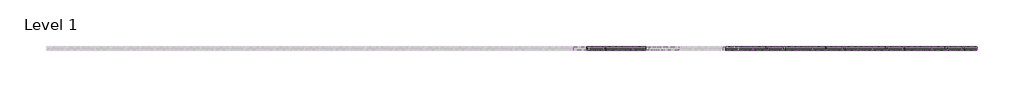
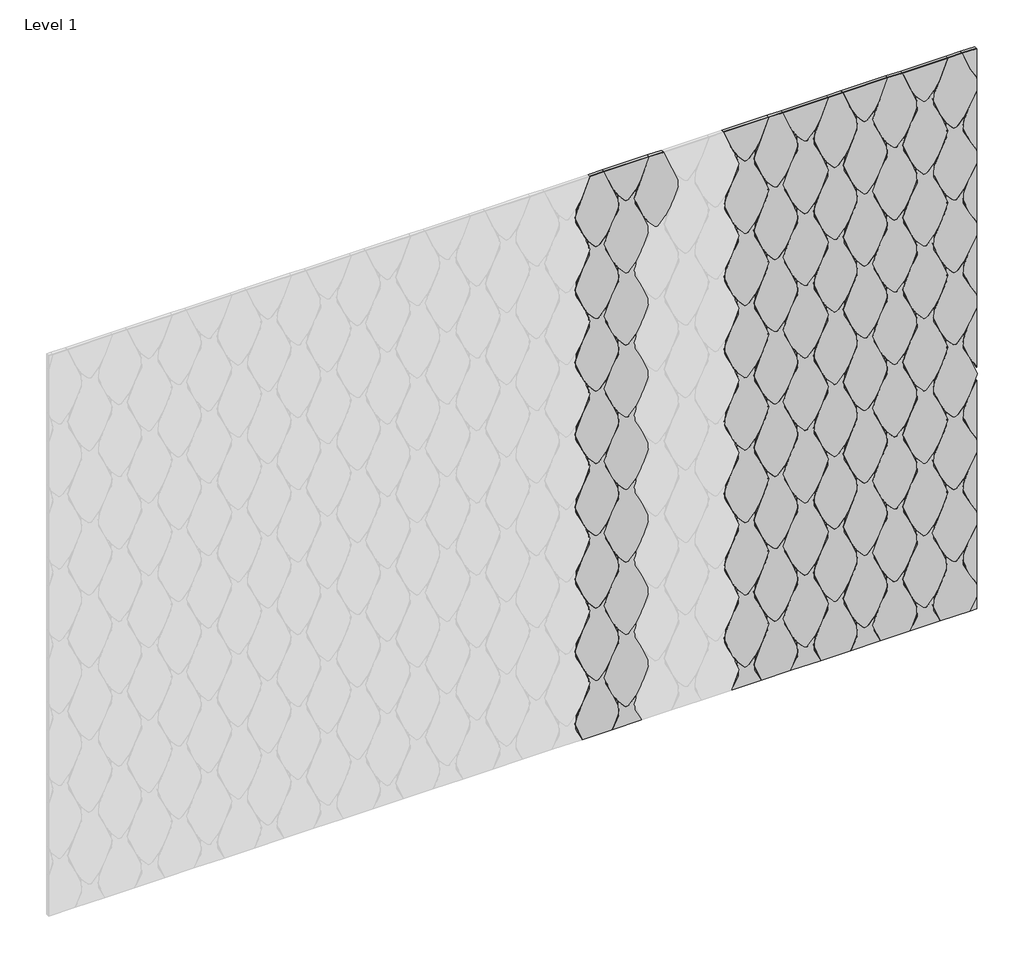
# One storey, part 3 of 3: 95 proxies.
"""IFC4 building model written with IfcOpenShell, lengths in millimetres."""

from ifc_helpers import new_model, si_unit, origin, place, context, project, spatial, transform, mapped, element, save
from components import specialty_equipment_90dfa3fd, specialty_equipment_1cb976ee, specialty_equipment_932aa2c9, specialty_equipment_3faf9097, specialty_equipment_b1607f59, specialty_equipment_77375bea, specialty_equipment_58f33b70, specialty_equipment_ba96d7a5, specialty_equipment_e357aaf0, specialty_equipment_1d68d449, specialty_equipment_25086a34, specialty_equipment_ef051c02, specialty_equipment_d7a9fa1d, specialty_equipment_cac041dc, specialty_equipment_c87418b1, specialty_equipment_dfd8184e, specialty_equipment_dfb3e7c8, specialty_equipment_b9e3a514

model = new_model("IFC4")

# Units and contexts
model_context = context("Model", 3, world=origin())
ifc_project = project(units=[si_unit("LENGTHUNIT", "METRE", prefix="MILLI")], contexts=[model_context])

# Site, building, storey
site = spatial("IfcSite", under=ifc_project)
building = spatial("IfcBuilding", under=site)
storey = spatial("IfcBuildingStorey", under=building, Name="Level 1", Elevation=0.0)

# Proxies
placement = place(None, origin())
specialty_equipment_shape = specialty_equipment_90dfa3fd(model_context)
element("IfcBuildingElementProxy", 1, Name="FilzFelt_Fish_Block : Fish Block", ObjectType="FilzFelt_Fish_Block : Fish Block", at=placement, inside=storey, context=model_context, shape_type="MappedRepresentation", body=[
    mapped(specialty_equipment_shape, transform((22706.139493, 4010.4660665, 1224.0904327), x_axis=(-1.0, 0.0, 0.0), y_axis=(0.0, 0.0, -1.0), z_axis=(0.0, -1.0, 0.0))),
])
element("IfcBuildingElementProxy", 2, Name="FilzFelt_Fish_Block : Fish Block", ObjectType="FilzFelt_Fish_Block : Fish Block", at=placement, inside=storey, context=model_context, shape_type="MappedRepresentation", body=[
    mapped(specialty_equipment_shape, transform((22813.2367844, 4010.4660665, 1361.3144593), x_axis=(-1.0, 0.0, 0.0), y_axis=(0.0, 0.0, -1.0), z_axis=(0.0, -1.0, 0.0))),
])
element("IfcBuildingElementProxy", 3, Name="FilzFelt_Fish_Block : Fish Block", ObjectType="FilzFelt_Fish_Block : Fish Block", at=placement, inside=storey, context=model_context, shape_type="MappedRepresentation", body=[
    mapped(specialty_equipment_shape, transform((22063.5557444, 4010.4660665, 1498.5384859), x_axis=(-1.0, 0.0, 0.0), y_axis=(0.0, 0.0, -1.0), z_axis=(0.0, -1.0, 0.0))),
])
element("IfcBuildingElementProxy", 4, Name="FilzFelt_Fish_Block : Fish Block", ObjectType="FilzFelt_Fish_Block : Fish Block", at=placement, inside=storey, context=model_context, shape_type="MappedRepresentation", body=[
    mapped(specialty_equipment_shape, transform((22063.5557444, 4010.4660665, 2047.4345922), x_axis=(-1.0, 0.0, 0.0), y_axis=(0.0, 0.0, -1.0), z_axis=(0.0, -1.0, 0.0))),
])
element("IfcBuildingElementProxy", 5, Name="FilzFelt_Fish_Block : Fish Block", ObjectType="FilzFelt_Fish_Block : Fish Block", at=placement, inside=storey, context=model_context, shape_type="MappedRepresentation", body=[
    mapped(specialty_equipment_shape, transform((22170.6530359, 4010.4660665, 1910.2105656), x_axis=(-1.0, 0.0, 0.0), y_axis=(0.0, 0.0, -1.0), z_axis=(0.0, -1.0, 0.0))),
])
element("IfcBuildingElementProxy", 6, Name="FilzFelt_Fish_Block : Fish Block", ObjectType="FilzFelt_Fish_Block : Fish Block", at=placement, inside=storey, context=model_context, shape_type="MappedRepresentation", body=[
    mapped(specialty_equipment_shape, transform((22706.139493, 4010.4660665, 1498.5384859), x_axis=(-1.0, 0.0, 0.0), y_axis=(0.0, 0.0, -1.0), z_axis=(0.0, -1.0, 0.0))),
])
element("IfcBuildingElementProxy", 7, Name="FilzFelt_Fish_Block : Fish Block", ObjectType="FilzFelt_Fish_Block : Fish Block", at=placement, inside=storey, context=model_context, shape_type="MappedRepresentation", body=[
    mapped(specialty_equipment_shape, transform((22706.139493, 4010.4660665, 949.6423796), x_axis=(-1.0, 0.0, 0.0), y_axis=(0.0, 0.0, -1.0), z_axis=(0.0, -1.0, 0.0))),
])
element("IfcBuildingElementProxy", 8, Name="FilzFelt_Fish_Block : Fish Block", ObjectType="FilzFelt_Fish_Block : Fish Block", at=placement, inside=storey, context=model_context, shape_type="MappedRepresentation", body=[
    mapped(specialty_equipment_shape, transform((22706.139493, 4010.4660665, 2321.8826453), x_axis=(-1.0, 0.0, 0.0), y_axis=(0.0, 0.0, -1.0), z_axis=(0.0, -1.0, 0.0))),
])
element("IfcBuildingElementProxy", 9, Name="FilzFelt_Fish_Block : Fish Block", ObjectType="FilzFelt_Fish_Block : Fish Block", at=placement, inside=storey, context=model_context, shape_type="MappedRepresentation", body=[
    mapped(specialty_equipment_shape, transform((22599.0422015, 4010.4660665, 1361.3144593), x_axis=(-1.0, 0.0, 0.0), y_axis=(0.0, 0.0, -1.0), z_axis=(0.0, -1.0, 0.0))),
])
element("IfcBuildingElementProxy", 10, Name="FilzFelt_Fish_Block : Fish Block", ObjectType="FilzFelt_Fish_Block : Fish Block", at=placement, inside=storey, context=model_context, shape_type="MappedRepresentation", body=[
    mapped(specialty_equipment_shape, transform((22599.0422015, 4010.4660665, 1635.7625124), x_axis=(-1.0, 0.0, 0.0), y_axis=(0.0, 0.0, -1.0), z_axis=(0.0, -1.0, 0.0))),
])
element("IfcBuildingElementProxy", 11, Name="FilzFelt_Fish_Block : Fish Block", ObjectType="FilzFelt_Fish_Block : Fish Block", at=placement, inside=storey, context=model_context, shape_type="MappedRepresentation", body=[
    mapped(specialty_equipment_shape, transform((22063.5557444, 4010.4660665, 1224.0904327), x_axis=(-1.0, 0.0, 0.0), y_axis=(0.0, 0.0, -1.0), z_axis=(0.0, -1.0, 0.0))),
])
element("IfcBuildingElementProxy", 12, Name="FilzFelt_Fish_Block : Fish Block", ObjectType="FilzFelt_Fish_Block : Fish Block", at=placement, inside=storey, context=model_context, shape_type="MappedRepresentation", body=[
    mapped(specialty_equipment_shape, transform((22170.6530359, 4010.4660665, 812.418353), x_axis=(-1.0, 0.0, 0.0), y_axis=(0.0, 0.0, -1.0), z_axis=(0.0, -1.0, 0.0))),
])
element("IfcBuildingElementProxy", 13, Name="FilzFelt_Fish_Block : Fish Block", ObjectType="FilzFelt_Fish_Block : Fish Block", at=placement, inside=storey, context=model_context, shape_type="MappedRepresentation", body=[
    mapped(specialty_equipment_shape, transform((22170.6530359, 4010.4660665, 1635.7625124), x_axis=(-1.0, 0.0, 0.0), y_axis=(0.0, 0.0, -1.0), z_axis=(0.0, -1.0, 0.0))),
])
element("IfcBuildingElementProxy", 14, Name="FilzFelt_Fish_Block : Fish Block", ObjectType="FilzFelt_Fish_Block : Fish Block", at=placement, inside=storey, context=model_context, shape_type="MappedRepresentation", body=[
    mapped(specialty_equipment_shape, transform((22170.6530359, 4010.4660665, 2184.6586188), x_axis=(-1.0, 0.0, 0.0), y_axis=(0.0, 0.0, -1.0), z_axis=(0.0, -1.0, 0.0))),
])
specialty_equipment_2_shape = specialty_equipment_1cb976ee(model_context)
element("IfcBuildingElementProxy", 15, Name="FilzFelt_Fish_Block : Fish Block", ObjectType="FilzFelt_Fish_Block : Fish Block", at=placement, inside=storey, context=model_context, shape_type="MappedRepresentation", body=[
    mapped(specialty_equipment_2_shape, transform((22706.139493, 4010.4660665, 2596.3306985), x_axis=(-1.0, 0.0, 0.0), y_axis=(0.0, 0.0, -1.0), z_axis=(0.0, -1.0, 0.0))),
])
element("IfcBuildingElementProxy", 16, Name="FilzFelt_Fish_Block : Fish Block", ObjectType="FilzFelt_Fish_Block : Fish Block", at=placement, inside=storey, context=model_context, shape_type="MappedRepresentation", body=[
    mapped(specialty_equipment_shape, transform((22706.139493, 4010.4660665, 1772.986539), x_axis=(-1.0, 0.0, 0.0), y_axis=(0.0, 0.0, -1.0), z_axis=(0.0, -1.0, 0.0))),
])
element("IfcBuildingElementProxy", 17, Name="FilzFelt_Fish_Block : Fish Block", ObjectType="FilzFelt_Fish_Block : Fish Block", at=placement, inside=storey, context=model_context, shape_type="MappedRepresentation", body=[
    mapped(specialty_equipment_shape, transform((22706.139493, 4010.4660665, 2047.4345922), x_axis=(-1.0, 0.0, 0.0), y_axis=(0.0, 0.0, -1.0), z_axis=(0.0, -1.0, 0.0))),
])
element("IfcBuildingElementProxy", 18, Name="FilzFelt_Fish_Block : Fish Block", ObjectType="FilzFelt_Fish_Block : Fish Block", at=placement, inside=storey, context=model_context, shape_type="MappedRepresentation", body=[
    mapped(specialty_equipment_shape, transform((22599.0422015, 4010.4660665, 812.418353), x_axis=(-1.0, 0.0, 0.0), y_axis=(0.0, 0.0, -1.0), z_axis=(0.0, -1.0, 0.0))),
])
element("IfcBuildingElementProxy", 19, Name="FilzFelt_Fish_Block : Fish Block", ObjectType="FilzFelt_Fish_Block : Fish Block", at=placement, inside=storey, context=model_context, shape_type="MappedRepresentation", body=[
    mapped(specialty_equipment_shape, transform((22599.0422015, 4010.4660665, 2184.6586188), x_axis=(-1.0, 0.0, 0.0), y_axis=(0.0, 0.0, -1.0), z_axis=(0.0, -1.0, 0.0))),
])
element("IfcBuildingElementProxy", 20, Name="FilzFelt_Fish_Block : Fish Block", ObjectType="FilzFelt_Fish_Block : Fish Block", at=placement, inside=storey, context=model_context, shape_type="MappedRepresentation", body=[
    mapped(specialty_equipment_shape, transform((22063.5557444, 4010.4660665, 1772.986539), x_axis=(-1.0, 0.0, 0.0), y_axis=(0.0, 0.0, -1.0), z_axis=(0.0, -1.0, 0.0))),
])
element("IfcBuildingElementProxy", 21, Name="FilzFelt_Fish_Block : Fish Block", ObjectType="FilzFelt_Fish_Block : Fish Block", at=placement, inside=storey, context=model_context, shape_type="MappedRepresentation", body=[
    mapped(specialty_equipment_shape, transform((22170.6530359, 4010.4660665, 1086.8664061), x_axis=(-1.0, 0.0, 0.0), y_axis=(0.0, 0.0, -1.0), z_axis=(0.0, -1.0, 0.0))),
])
specialty_equipment_3_shape = specialty_equipment_932aa2c9(model_context)
element("IfcBuildingElementProxy", 22, Name="FilzFelt_Fish_Block : Fish Block", ObjectType="FilzFelt_Fish_Block : Fish Block", at=placement, inside=storey, context=model_context, shape_type="MappedRepresentation", body=[
    mapped(specialty_equipment_3_shape, transform((22706.139493, 4010.4660665, 400.7462733), x_axis=(-1.0, 0.0, 0.0), y_axis=(0.0, 0.0, -1.0), z_axis=(0.0, -1.0, 0.0))),
])
element("IfcBuildingElementProxy", 23, Name="FilzFelt_Fish_Block : Fish Block", ObjectType="FilzFelt_Fish_Block : Fish Block", at=placement, inside=storey, context=model_context, shape_type="MappedRepresentation", body=[
    mapped(specialty_equipment_3_shape, transform((22063.5557444, 4010.4660665, 400.7462733), x_axis=(-1.0, 0.0, 0.0), y_axis=(0.0, 0.0, -1.0), z_axis=(0.0, -1.0, 0.0))),
])
specialty_equipment_4_shape = specialty_equipment_3faf9097(model_context)
element("IfcBuildingElementProxy", 24, Name="FilzFelt_Fish_Block : Fish Block", ObjectType="FilzFelt_Fish_Block : Fish Block", at=placement, inside=storey, context=model_context, shape_type="MappedRepresentation", body=[
    mapped(specialty_equipment_4_shape, transform((22813.2367844, 4010.4660665, 537.9702998), x_axis=(-1.0, 0.0, 0.0), y_axis=(0.0, 0.0, -1.0), z_axis=(0.0, -1.0, 0.0))),
])
specialty_equipment_5_shape = specialty_equipment_b1607f59(model_context)
element("IfcBuildingElementProxy", 25, Name="FilzFelt_Fish_Block : Fish Block", ObjectType="FilzFelt_Fish_Block : Fish Block", at=placement, inside=storey, context=model_context, shape_type="MappedRepresentation", body=[
    mapped(specialty_equipment_5_shape, transform((22813.2367844, 4010.4660665, 812.418353), x_axis=(-1.0, 0.0, 0.0), y_axis=(0.0, 0.0, -1.0), z_axis=(0.0, -1.0, 0.0))),
])
element("IfcBuildingElementProxy", 26, Name="FilzFelt_Fish_Block : Fish Block", ObjectType="FilzFelt_Fish_Block : Fish Block", at=placement, inside=storey, context=model_context, shape_type="MappedRepresentation", body=[
    mapped(specialty_equipment_5_shape, transform((22813.2367844, 4010.4660665, 1635.7625124), x_axis=(-1.0, 0.0, 0.0), y_axis=(0.0, 0.0, -1.0), z_axis=(0.0, -1.0, 0.0))),
])
element("IfcBuildingElementProxy", 27, Name="FilzFelt_Fish_Block : Fish Block", ObjectType="FilzFelt_Fish_Block : Fish Block", at=placement, inside=storey, context=model_context, shape_type="MappedRepresentation", body=[
    mapped(specialty_equipment_5_shape, transform((22813.2367844, 4010.4660665, 2184.6586188), x_axis=(-1.0, 0.0, 0.0), y_axis=(0.0, 0.0, -1.0), z_axis=(0.0, -1.0, 0.0))),
])
element("IfcBuildingElementProxy", 28, Name="FilzFelt_Fish_Block : Fish Block", ObjectType="FilzFelt_Fish_Block : Fish Block", at=placement, inside=storey, context=model_context, shape_type="MappedRepresentation", body=[
    mapped(specialty_equipment_5_shape, transform((22813.2367844, 4010.4660665, 1086.8664061), x_axis=(-1.0, 0.0, 0.0), y_axis=(0.0, 0.0, -1.0), z_axis=(0.0, -1.0, 0.0))),
])
element("IfcBuildingElementProxy", 29, Name="FilzFelt_Fish_Block : Fish Block", ObjectType="FilzFelt_Fish_Block : Fish Block", at=placement, inside=storey, context=model_context, shape_type="MappedRepresentation", body=[
    mapped(specialty_equipment_5_shape, transform((22813.2367844, 4010.4660665, 1910.2105656), x_axis=(-1.0, 0.0, 0.0), y_axis=(0.0, 0.0, -1.0), z_axis=(0.0, -1.0, 0.0))),
])
specialty_equipment_6_shape = specialty_equipment_77375bea(model_context)
element("IfcBuildingElementProxy", 30, Name="FilzFelt_Fish_Block : Fish Block", ObjectType="FilzFelt_Fish_Block : Fish Block", at=placement, inside=storey, context=model_context, shape_type="MappedRepresentation", body=[
    mapped(specialty_equipment_6_shape, transform((22813.2367844, 4010.4660665, 2459.1066719), x_axis=(-1.0, 0.0, 0.0), y_axis=(0.0, 0.0, -1.0), z_axis=(0.0, -1.0, 0.0))),
])
specialty_equipment_7_shape = specialty_equipment_58f33b70(model_context)
element("IfcBuildingElementProxy", 31, Name="FilzFelt_Fish_Block : Fish Block", ObjectType="FilzFelt_Fish_Block : Fish Block", at=placement, inside=storey, context=model_context, shape_type="MappedRepresentation", body=[
    mapped(specialty_equipment_7_shape, transform((22706.139493, 4010.4660665, 675.1943264), x_axis=(-1.0, 0.0, 0.0), y_axis=(0.0, 0.0, -1.0), z_axis=(0.0, -1.0, 0.0))),
])
specialty_equipment_8_shape = specialty_equipment_ba96d7a5(model_context)
element("IfcBuildingElementProxy", 32, Name="FilzFelt_Fish_Block : Fish Block", ObjectType="FilzFelt_Fish_Block : Fish Block", at=placement, inside=storey, context=model_context, shape_type="MappedRepresentation", body=[
    mapped(specialty_equipment_8_shape, transform((22599.0422015, 4010.4660665, 537.9702998), x_axis=(-1.0, 0.0, 0.0), y_axis=(0.0, 0.0, -1.0), z_axis=(0.0, -1.0, 0.0))),
])
element("IfcBuildingElementProxy", 33, Name="FilzFelt_Fish_Block : Fish Block", ObjectType="FilzFelt_Fish_Block : Fish Block", at=placement, inside=storey, context=model_context, shape_type="MappedRepresentation", body=[
    mapped(specialty_equipment_shape, transform((22599.0422015, 4010.4660665, 1086.8664061), x_axis=(-1.0, 0.0, 0.0), y_axis=(0.0, 0.0, -1.0), z_axis=(0.0, -1.0, 0.0))),
])
element("IfcBuildingElementProxy", 34, Name="FilzFelt_Fish_Block : Fish Block", ObjectType="FilzFelt_Fish_Block : Fish Block", at=placement, inside=storey, context=model_context, shape_type="MappedRepresentation", body=[
    mapped(specialty_equipment_shape, transform((22599.0422015, 4010.4660665, 1910.2105656), x_axis=(-1.0, 0.0, 0.0), y_axis=(0.0, 0.0, -1.0), z_axis=(0.0, -1.0, 0.0))),
])
element("IfcBuildingElementProxy", 35, Name="FilzFelt_Fish_Block : Fish Block", ObjectType="FilzFelt_Fish_Block : Fish Block", at=placement, inside=storey, context=model_context, shape_type="MappedRepresentation", body=[
    mapped(specialty_equipment_shape, transform((22063.5557444, 4010.4660665, 949.6423796), x_axis=(-1.0, 0.0, 0.0), y_axis=(0.0, 0.0, -1.0), z_axis=(0.0, -1.0, 0.0))),
])
element("IfcBuildingElementProxy", 36, Name="FilzFelt_Fish_Block : Fish Block", ObjectType="FilzFelt_Fish_Block : Fish Block", at=placement, inside=storey, context=model_context, shape_type="MappedRepresentation", body=[
    mapped(specialty_equipment_shape, transform((22063.5557444, 4010.4660665, 2321.8826453), x_axis=(-1.0, 0.0, 0.0), y_axis=(0.0, 0.0, -1.0), z_axis=(0.0, -1.0, 0.0))),
])
element("IfcBuildingElementProxy", 37, Name="FilzFelt_Fish_Block : Fish Block", ObjectType="FilzFelt_Fish_Block : Fish Block", at=placement, inside=storey, context=model_context, shape_type="MappedRepresentation", body=[
    mapped(specialty_equipment_shape, transform((22170.6530359, 4010.4660665, 1361.3144593), x_axis=(-1.0, 0.0, 0.0), y_axis=(0.0, 0.0, -1.0), z_axis=(0.0, -1.0, 0.0))),
])
specialty_equipment_9_shape = specialty_equipment_e357aaf0(model_context)
element("IfcBuildingElementProxy", 38, Name="FilzFelt_Fish_Block : Fish Block", ObjectType="FilzFelt_Fish_Block : Fish Block", at=placement, inside=storey, context=model_context, shape_type="MappedRepresentation", body=[
    mapped(specialty_equipment_9_shape, transform((22599.0422015, 4010.4660665, 2459.1066719), x_axis=(-1.0, 0.0, 0.0), y_axis=(0.0, 0.0, -1.0), z_axis=(0.0, -1.0, 0.0))),
])
specialty_equipment_10_shape = specialty_equipment_1d68d449(model_context)
element("IfcBuildingElementProxy", 39, Name="FilzFelt_Fish_Block : Fish Block", ObjectType="FilzFelt_Fish_Block : Fish Block", at=placement, inside=storey, context=model_context, shape_type="MappedRepresentation", body=[
    mapped(specialty_equipment_10_shape, transform((22491.9449101, 4010.4660665, 1224.0904327), x_axis=(1.0, 0.0, 0.0), y_axis=(0.0, 0.0, 1.0), z_axis=(0.0, -1.0, 0.0))),
])
element("IfcBuildingElementProxy", 40, Name="FilzFelt_Fish_Block : Fish Block", ObjectType="FilzFelt_Fish_Block : Fish Block", at=placement, inside=storey, context=model_context, shape_type="MappedRepresentation", body=[
    mapped(specialty_equipment_10_shape, transform((22491.9449101, 4010.4660665, 1772.986539), x_axis=(1.0, 0.0, 0.0), y_axis=(0.0, 0.0, 1.0), z_axis=(0.0, -1.0, 0.0))),
])
element("IfcBuildingElementProxy", 41, Name="FilzFelt_Fish_Block : Fish Block", ObjectType="FilzFelt_Fish_Block : Fish Block", at=placement, inside=storey, context=model_context, shape_type="MappedRepresentation", body=[
    mapped(specialty_equipment_10_shape, transform((22277.7503273, 4010.4660665, 949.6423796), x_axis=(1.0, 0.0, 0.0), y_axis=(0.0, 0.0, 1.0), z_axis=(0.0, -1.0, 0.0))),
])
element("IfcBuildingElementProxy", 42, Name="FilzFelt_Fish_Block : Fish Block", ObjectType="FilzFelt_Fish_Block : Fish Block", at=placement, inside=storey, context=model_context, shape_type="MappedRepresentation", body=[
    mapped(specialty_equipment_10_shape, transform((22277.7503273, 4010.4660665, 2321.8826453), x_axis=(1.0, 0.0, 0.0), y_axis=(0.0, 0.0, 1.0), z_axis=(0.0, -1.0, 0.0))),
])
element("IfcBuildingElementProxy", 43, Name="FilzFelt_Fish_Block : Fish Block", ObjectType="FilzFelt_Fish_Block : Fish Block", at=placement, inside=storey, context=model_context, shape_type="MappedRepresentation", body=[
    mapped(specialty_equipment_10_shape, transform((22277.7503273, 4010.4660665, 1772.986539), x_axis=(1.0, 0.0, 0.0), y_axis=(0.0, 0.0, 1.0), z_axis=(0.0, -1.0, 0.0))),
])
element("IfcBuildingElementProxy", 44, Name="FilzFelt_Fish_Block : Fish Block", ObjectType="FilzFelt_Fish_Block : Fish Block", at=placement, inside=storey, context=model_context, shape_type="MappedRepresentation", body=[
    mapped(specialty_equipment_10_shape, transform((22384.8476187, 4010.4660665, 812.418353), x_axis=(1.0, 0.0, 0.0), y_axis=(0.0, 0.0, 1.0), z_axis=(0.0, -1.0, 0.0))),
])
element("IfcBuildingElementProxy", 45, Name="FilzFelt_Fish_Block : Fish Block", ObjectType="FilzFelt_Fish_Block : Fish Block", at=placement, inside=storey, context=model_context, shape_type="MappedRepresentation", body=[
    mapped(specialty_equipment_10_shape, transform((22384.8476187, 4010.4660665, 2184.6586188), x_axis=(1.0, 0.0, 0.0), y_axis=(0.0, 0.0, 1.0), z_axis=(0.0, -1.0, 0.0))),
])
element("IfcBuildingElementProxy", 46, Name="FilzFelt_Fish_Block : Fish Block", ObjectType="FilzFelt_Fish_Block : Fish Block", at=placement, inside=storey, context=model_context, shape_type="MappedRepresentation", body=[
    mapped(specialty_equipment_10_shape, transform((21635.1665787, 4010.4660665, 2047.4345922), x_axis=(1.0, 0.0, 0.0), y_axis=(0.0, 0.0, 1.0), z_axis=(0.0, -1.0, 0.0))),
])
element("IfcBuildingElementProxy", 47, Name="FilzFelt_Fish_Block : Fish Block", ObjectType="FilzFelt_Fish_Block : Fish Block", at=placement, inside=storey, context=model_context, shape_type="MappedRepresentation", body=[
    mapped(specialty_equipment_10_shape, transform((21528.0692873, 4010.4660665, 1361.3144593), x_axis=(1.0, 0.0, 0.0), y_axis=(0.0, 0.0, 1.0), z_axis=(0.0, -1.0, 0.0))),
])
element("IfcBuildingElementProxy", 48, Name="FilzFelt_Fish_Block : Fish Block", ObjectType="FilzFelt_Fish_Block : Fish Block", at=placement, inside=storey, context=model_context, shape_type="MappedRepresentation", body=[
    mapped(specialty_equipment_10_shape, transform((22491.9449101, 4010.4660665, 1498.5384859), x_axis=(1.0, 0.0, 0.0), y_axis=(0.0, 0.0, 1.0), z_axis=(0.0, -1.0, 0.0))),
])
element("IfcBuildingElementProxy", 49, Name="FilzFelt_Fish_Block : Fish Block", ObjectType="FilzFelt_Fish_Block : Fish Block", at=placement, inside=storey, context=model_context, shape_type="MappedRepresentation", body=[
    mapped(specialty_equipment_10_shape, transform((22384.8476187, 4010.4660665, 1635.7625124), x_axis=(1.0, 0.0, 0.0), y_axis=(0.0, 0.0, 1.0), z_axis=(0.0, -1.0, 0.0))),
])
element("IfcBuildingElementProxy", 50, Name="FilzFelt_Fish_Block : Fish Block", ObjectType="FilzFelt_Fish_Block : Fish Block", at=placement, inside=storey, context=model_context, shape_type="MappedRepresentation", body=[
    mapped(specialty_equipment_10_shape, transform((21635.1665787, 4010.4660665, 949.6423796), x_axis=(1.0, 0.0, 0.0), y_axis=(0.0, 0.0, 1.0), z_axis=(0.0, -1.0, 0.0))),
])
element("IfcBuildingElementProxy", 51, Name="FilzFelt_Fish_Block : Fish Block", ObjectType="FilzFelt_Fish_Block : Fish Block", at=placement, inside=storey, context=model_context, shape_type="MappedRepresentation", body=[
    mapped(specialty_equipment_10_shape, transform((21635.1665787, 4010.4660665, 2321.8826453), x_axis=(1.0, 0.0, 0.0), y_axis=(0.0, 0.0, 1.0), z_axis=(0.0, -1.0, 0.0))),
])
element("IfcBuildingElementProxy", 52, Name="FilzFelt_Fish_Block : Fish Block", ObjectType="FilzFelt_Fish_Block : Fish Block", at=placement, inside=storey, context=model_context, shape_type="MappedRepresentation", body=[
    mapped(specialty_equipment_10_shape, transform((21635.1665787, 4010.4660665, 1772.986539), x_axis=(1.0, 0.0, 0.0), y_axis=(0.0, 0.0, 1.0), z_axis=(0.0, -1.0, 0.0))),
])
element("IfcBuildingElementProxy", 53, Name="FilzFelt_Fish_Block : Fish Block", ObjectType="FilzFelt_Fish_Block : Fish Block", at=placement, inside=storey, context=model_context, shape_type="MappedRepresentation", body=[
    mapped(specialty_equipment_10_shape, transform((22491.9449101, 4010.4660665, 949.6423796), x_axis=(1.0, 0.0, 0.0), y_axis=(0.0, 0.0, 1.0), z_axis=(0.0, -1.0, 0.0))),
])
element("IfcBuildingElementProxy", 54, Name="FilzFelt_Fish_Block : Fish Block", ObjectType="FilzFelt_Fish_Block : Fish Block", at=placement, inside=storey, context=model_context, shape_type="MappedRepresentation", body=[
    mapped(specialty_equipment_10_shape, transform((22491.9449101, 4010.4660665, 2321.8826453), x_axis=(1.0, 0.0, 0.0), y_axis=(0.0, 0.0, 1.0), z_axis=(0.0, -1.0, 0.0))),
])
element("IfcBuildingElementProxy", 55, Name="FilzFelt_Fish_Block : Fish Block", ObjectType="FilzFelt_Fish_Block : Fish Block", at=placement, inside=storey, context=model_context, shape_type="MappedRepresentation", body=[
    mapped(specialty_equipment_10_shape, transform((22491.9449101, 4010.4660665, 2047.4345922), x_axis=(1.0, 0.0, 0.0), y_axis=(0.0, 0.0, 1.0), z_axis=(0.0, -1.0, 0.0))),
])
element("IfcBuildingElementProxy", 56, Name="FilzFelt_Fish_Block : Fish Block", ObjectType="FilzFelt_Fish_Block : Fish Block", at=placement, inside=storey, context=model_context, shape_type="MappedRepresentation", body=[
    mapped(specialty_equipment_10_shape, transform((22277.7503273, 4010.4660665, 1224.0904327), x_axis=(1.0, 0.0, 0.0), y_axis=(0.0, 0.0, 1.0), z_axis=(0.0, -1.0, 0.0))),
])
element("IfcBuildingElementProxy", 57, Name="FilzFelt_Fish_Block : Fish Block", ObjectType="FilzFelt_Fish_Block : Fish Block", at=placement, inside=storey, context=model_context, shape_type="MappedRepresentation", body=[
    mapped(specialty_equipment_10_shape, transform((22384.8476187, 4010.4660665, 1361.3144593), x_axis=(1.0, 0.0, 0.0), y_axis=(0.0, 0.0, 1.0), z_axis=(0.0, -1.0, 0.0))),
])
element("IfcBuildingElementProxy", 58, Name="FilzFelt_Fish_Block : Fish Block", ObjectType="FilzFelt_Fish_Block : Fish Block", at=placement, inside=storey, context=model_context, shape_type="MappedRepresentation", body=[
    mapped(specialty_equipment_10_shape, transform((22384.8476187, 4010.4660665, 1910.2105656), x_axis=(1.0, 0.0, 0.0), y_axis=(0.0, 0.0, 1.0), z_axis=(0.0, -1.0, 0.0))),
])
element("IfcBuildingElementProxy", 59, Name="FilzFelt_Fish_Block : Fish Block", ObjectType="FilzFelt_Fish_Block : Fish Block", at=placement, inside=storey, context=model_context, shape_type="MappedRepresentation", body=[
    mapped(specialty_equipment_10_shape, transform((21635.1665787, 4010.4660665, 1224.0904327), x_axis=(1.0, 0.0, 0.0), y_axis=(0.0, 0.0, 1.0), z_axis=(0.0, -1.0, 0.0))),
])
element("IfcBuildingElementProxy", 60, Name="FilzFelt_Fish_Block : Fish Block", ObjectType="FilzFelt_Fish_Block : Fish Block", at=placement, inside=storey, context=model_context, shape_type="MappedRepresentation", body=[
    mapped(specialty_equipment_10_shape, transform((21528.0692873, 4010.4660665, 1086.8664061), x_axis=(1.0, 0.0, 0.0), y_axis=(0.0, 0.0, 1.0), z_axis=(0.0, -1.0, 0.0))),
])
element("IfcBuildingElementProxy", 61, Name="FilzFelt_Fish_Block : Fish Block", ObjectType="FilzFelt_Fish_Block : Fish Block", at=placement, inside=storey, context=model_context, shape_type="MappedRepresentation", body=[
    mapped(specialty_equipment_10_shape, transform((21528.0692873, 4010.4660665, 1635.7625124), x_axis=(1.0, 0.0, 0.0), y_axis=(0.0, 0.0, 1.0), z_axis=(0.0, -1.0, 0.0))),
])
specialty_equipment_11_shape = specialty_equipment_25086a34(model_context)
element("IfcBuildingElementProxy", 62, Name="FilzFelt_Fish_Block : Fish Block", ObjectType="FilzFelt_Fish_Block : Fish Block", at=placement, inside=storey, context=model_context, shape_type="MappedRepresentation", body=[
    mapped(specialty_equipment_11_shape, transform((22491.9449101, 4010.4660665, 2596.3306985), x_axis=(1.0, 0.0, 0.0), y_axis=(0.0, 0.0, 1.0), z_axis=(0.0, -1.0, 0.0))),
])
specialty_equipment_12_shape = specialty_equipment_ef051c02(model_context)
element("IfcBuildingElementProxy", 63, Name="FilzFelt_Fish_Block : Fish Block", ObjectType="FilzFelt_Fish_Block : Fish Block", at=placement, inside=storey, context=model_context, shape_type="MappedRepresentation", body=[
    mapped(specialty_equipment_12_shape, transform((22491.9449101, 4010.4660665, 400.7462733), x_axis=(1.0, 0.0, 0.0), y_axis=(0.0, 0.0, 1.0), z_axis=(0.0, -1.0, 0.0))),
])
element("IfcBuildingElementProxy", 64, Name="FilzFelt_Fish_Block : Fish Block", ObjectType="FilzFelt_Fish_Block : Fish Block", at=placement, inside=storey, context=model_context, shape_type="MappedRepresentation", body=[
    mapped(specialty_equipment_12_shape, transform((22277.7503273, 4010.4660665, 400.7462733), x_axis=(1.0, 0.0, 0.0), y_axis=(0.0, 0.0, 1.0), z_axis=(0.0, -1.0, 0.0))),
])
specialty_equipment_13_shape = specialty_equipment_d7a9fa1d(model_context)
element("IfcBuildingElementProxy", 65, Name="FilzFelt_Fish_Block : Fish Block", ObjectType="FilzFelt_Fish_Block : Fish Block", at=placement, inside=storey, context=model_context, shape_type="MappedRepresentation", body=[
    mapped(specialty_equipment_13_shape, transform((22491.9449101, 4010.4660665, 675.1943264), x_axis=(1.0, 0.0, 0.0), y_axis=(0.0, 0.0, 1.0), z_axis=(0.0, -1.0, 0.0))),
])
element("IfcBuildingElementProxy", 66, Name="FilzFelt_Fish_Block : Fish Block", ObjectType="FilzFelt_Fish_Block : Fish Block", at=placement, inside=storey, context=model_context, shape_type="MappedRepresentation", body=[
    mapped(specialty_equipment_10_shape, transform((22277.7503273, 4010.4660665, 1498.5384859), x_axis=(1.0, 0.0, 0.0), y_axis=(0.0, 0.0, 1.0), z_axis=(0.0, -1.0, 0.0))),
])
element("IfcBuildingElementProxy", 67, Name="FilzFelt_Fish_Block : Fish Block", ObjectType="FilzFelt_Fish_Block : Fish Block", at=placement, inside=storey, context=model_context, shape_type="MappedRepresentation", body=[
    mapped(specialty_equipment_10_shape, transform((22277.7503273, 4010.4660665, 2047.4345922), x_axis=(1.0, 0.0, 0.0), y_axis=(0.0, 0.0, 1.0), z_axis=(0.0, -1.0, 0.0))),
])
element("IfcBuildingElementProxy", 68, Name="FilzFelt_Fish_Block : Fish Block", ObjectType="FilzFelt_Fish_Block : Fish Block", at=placement, inside=storey, context=model_context, shape_type="MappedRepresentation", body=[
    mapped(specialty_equipment_10_shape, transform((22384.8476187, 4010.4660665, 1086.8664061), x_axis=(1.0, 0.0, 0.0), y_axis=(0.0, 0.0, 1.0), z_axis=(0.0, -1.0, 0.0))),
])
element("IfcBuildingElementProxy", 69, Name="FilzFelt_Fish_Block : Fish Block", ObjectType="FilzFelt_Fish_Block : Fish Block", at=placement, inside=storey, context=model_context, shape_type="MappedRepresentation", body=[
    mapped(specialty_equipment_10_shape, transform((21635.1665787, 4010.4660665, 1498.5384859), x_axis=(1.0, 0.0, 0.0), y_axis=(0.0, 0.0, 1.0), z_axis=(0.0, -1.0, 0.0))),
])
element("IfcBuildingElementProxy", 70, Name="FilzFelt_Fish_Block : Fish Block", ObjectType="FilzFelt_Fish_Block : Fish Block", at=placement, inside=storey, context=model_context, shape_type="MappedRepresentation", body=[
    mapped(specialty_equipment_10_shape, transform((21528.0692873, 4010.4660665, 812.418353), x_axis=(1.0, 0.0, 0.0), y_axis=(0.0, 0.0, 1.0), z_axis=(0.0, -1.0, 0.0))),
])
element("IfcBuildingElementProxy", 71, Name="FilzFelt_Fish_Block : Fish Block", ObjectType="FilzFelt_Fish_Block : Fish Block", at=placement, inside=storey, context=model_context, shape_type="MappedRepresentation", body=[
    mapped(specialty_equipment_10_shape, transform((21528.0692873, 4010.4660665, 1910.2105656), x_axis=(1.0, 0.0, 0.0), y_axis=(0.0, 0.0, 1.0), z_axis=(0.0, -1.0, 0.0))),
])
element("IfcBuildingElementProxy", 72, Name="FilzFelt_Fish_Block : Fish Block", ObjectType="FilzFelt_Fish_Block : Fish Block", at=placement, inside=storey, context=model_context, shape_type="MappedRepresentation", body=[
    mapped(specialty_equipment_10_shape, transform((21528.0692873, 4010.4660665, 2184.6586188), x_axis=(1.0, 0.0, 0.0), y_axis=(0.0, 0.0, 1.0), z_axis=(0.0, -1.0, 0.0))),
])
element("IfcBuildingElementProxy", 73, Name="FilzFelt_Fish_Block : Fish Block", ObjectType="FilzFelt_Fish_Block : Fish Block", at=placement, inside=storey, context=model_context, shape_type="MappedRepresentation", body=[
    mapped(specialty_equipment_11_shape, transform((22277.7503273, 4010.4660665, 2596.3306985), x_axis=(1.0, 0.0, 0.0), y_axis=(0.0, 0.0, 1.0), z_axis=(0.0, -1.0, 0.0))),
])
element("IfcBuildingElementProxy", 74, Name="FilzFelt_Fish_Block : Fish Block", ObjectType="FilzFelt_Fish_Block : Fish Block", at=placement, inside=storey, context=model_context, shape_type="MappedRepresentation", body=[
    mapped(specialty_equipment_11_shape, transform((21635.1665787, 4010.4660665, 2596.3306985), x_axis=(1.0, 0.0, 0.0), y_axis=(0.0, 0.0, 1.0), z_axis=(0.0, -1.0, 0.0))),
])
element("IfcBuildingElementProxy", 75, Name="FilzFelt_Fish_Block : Fish Block", ObjectType="FilzFelt_Fish_Block : Fish Block", at=placement, inside=storey, context=model_context, shape_type="MappedRepresentation", body=[
    mapped(specialty_equipment_13_shape, transform((22277.7503273, 4010.4660665, 675.1943264), x_axis=(1.0, 0.0, 0.0), y_axis=(0.0, 0.0, 1.0), z_axis=(0.0, -1.0, 0.0))),
])
specialty_equipment_14_shape = specialty_equipment_cac041dc(model_context)
element("IfcBuildingElementProxy", 76, Name="FilzFelt_Fish_Block : Fish Block", ObjectType="FilzFelt_Fish_Block : Fish Block", at=placement, inside=storey, context=model_context, shape_type="MappedRepresentation", body=[
    mapped(specialty_equipment_14_shape, transform((22384.8476187, 4010.4660665, 537.9702998), x_axis=(1.0, 0.0, 0.0), y_axis=(0.0, 0.0, 1.0), z_axis=(0.0, -1.0, 0.0))),
])
specialty_equipment_15_shape = specialty_equipment_c87418b1(model_context)
element("IfcBuildingElementProxy", 77, Name="FilzFelt_Fish_Block : Fish Block", ObjectType="FilzFelt_Fish_Block : Fish Block", at=placement, inside=storey, context=model_context, shape_type="MappedRepresentation", body=[
    mapped(specialty_equipment_15_shape, transform((22384.8476187, 4010.4660665, 2459.1066719), x_axis=(1.0, 0.0, 0.0), y_axis=(0.0, 0.0, 1.0), z_axis=(0.0, -1.0, 0.0))),
])
element("IfcBuildingElementProxy", 78, Name="FilzFelt_Fish_Block : Fish Block", ObjectType="FilzFelt_Fish_Block : Fish Block", at=placement, inside=storey, context=model_context, shape_type="MappedRepresentation", body=[
    mapped(specialty_equipment_2_shape, transform((22063.5557444, 4010.4660665, 2596.3306985), x_axis=(-1.0, 0.0, 0.0), y_axis=(0.0, 0.0, -1.0), z_axis=(0.0, -1.0, 0.0))),
])
element("IfcBuildingElementProxy", 79, Name="FilzFelt_Fish_Block : Fish Block", ObjectType="FilzFelt_Fish_Block : Fish Block", at=placement, inside=storey, context=model_context, shape_type="MappedRepresentation", body=[
    mapped(specialty_equipment_7_shape, transform((22063.5557444, 4010.4660665, 675.1943264), x_axis=(-1.0, 0.0, 0.0), y_axis=(0.0, 0.0, -1.0), z_axis=(0.0, -1.0, 0.0))),
])
element("IfcBuildingElementProxy", 80, Name="FilzFelt_Fish_Block : Fish Block", ObjectType="FilzFelt_Fish_Block : Fish Block", at=placement, inside=storey, context=model_context, shape_type="MappedRepresentation", body=[
    mapped(specialty_equipment_8_shape, transform((22170.6530359, 4010.4660665, 537.9702998), x_axis=(-1.0, 0.0, 0.0), y_axis=(0.0, 0.0, -1.0), z_axis=(0.0, -1.0, 0.0))),
])
element("IfcBuildingElementProxy", 81, Name="FilzFelt_Fish_Block : Fish Block", ObjectType="FilzFelt_Fish_Block : Fish Block", at=placement, inside=storey, context=model_context, shape_type="MappedRepresentation", body=[
    mapped(specialty_equipment_9_shape, transform((22170.6530359, 4010.4660665, 2459.1066719), x_axis=(-1.0, 0.0, 0.0), y_axis=(0.0, 0.0, -1.0), z_axis=(0.0, -1.0, 0.0))),
])
element("IfcBuildingElementProxy", 82, Name="FilzFelt_Fish_Block : Fish Block", ObjectType="FilzFelt_Fish_Block : Fish Block", at=placement, inside=storey, context=model_context, shape_type="MappedRepresentation", body=[
    mapped(specialty_equipment_12_shape, transform((21635.1665787, 4010.4660665, 400.7462733), x_axis=(1.0, 0.0, 0.0), y_axis=(0.0, 0.0, 1.0), z_axis=(0.0, -1.0, 0.0))),
])
element("IfcBuildingElementProxy", 83, Name="FilzFelt_Fish_Block : Fish Block", ObjectType="FilzFelt_Fish_Block : Fish Block", at=placement, inside=storey, context=model_context, shape_type="MappedRepresentation", body=[
    mapped(specialty_equipment_9_shape, transform((21742.2638702, 4010.4660665, 2459.1066719), x_axis=(-1.0, 0.0, 0.0), y_axis=(0.0, 0.0, -1.0), z_axis=(0.0, -1.0, 0.0))),
])
element("IfcBuildingElementProxy", 84, Name="FilzFelt_Fish_Block : Fish Block", ObjectType="FilzFelt_Fish_Block : Fish Block", at=placement, inside=storey, context=model_context, shape_type="MappedRepresentation", body=[
    mapped(specialty_equipment_13_shape, transform((21635.1665787, 4010.4660665, 675.1943264), x_axis=(1.0, 0.0, 0.0), y_axis=(0.0, 0.0, 1.0), z_axis=(0.0, -1.0, 0.0))),
])
element("IfcBuildingElementProxy", 85, Name="FilzFelt_Fish_Block : Fish Block", ObjectType="FilzFelt_Fish_Block : Fish Block", at=placement, inside=storey, context=model_context, shape_type="MappedRepresentation", body=[
    mapped(specialty_equipment_14_shape, transform((21528.0692873, 4010.4660665, 537.9702998), x_axis=(1.0, 0.0, 0.0), y_axis=(0.0, 0.0, 1.0), z_axis=(0.0, -1.0, 0.0))),
])
element("IfcBuildingElementProxy", 86, Name="FilzFelt_Fish_Block : Fish Block", ObjectType="FilzFelt_Fish_Block : Fish Block", at=placement, inside=storey, context=model_context, shape_type="MappedRepresentation", body=[
    mapped(specialty_equipment_15_shape, transform((21528.0692873, 4010.4660665, 2459.1066719), x_axis=(1.0, 0.0, 0.0), y_axis=(0.0, 0.0, 1.0), z_axis=(0.0, -1.0, 0.0))),
])
specialty_equipment_16_shape = specialty_equipment_dfd8184e(model_context)
element("IfcBuildingElementProxy", 87, Name="FilzFelt_Fish_Block : Fish Block", ObjectType="FilzFelt_Fish_Block : Fish Block", at=placement, inside=storey, context=model_context, shape_type="MappedRepresentation", body=[
    mapped(specialty_equipment_16_shape, transform((22920.3340758, 4010.4660665, 1224.0904327), x_axis=(-1.0, 0.0, 0.0), y_axis=(0.0, 0.0, -1.0), z_axis=(0.0, -1.0, 0.0))),
])
element("IfcBuildingElementProxy", 88, Name="FilzFelt_Fish_Block : Fish Block", ObjectType="FilzFelt_Fish_Block : Fish Block", at=placement, inside=storey, context=model_context, shape_type="MappedRepresentation", body=[
    mapped(specialty_equipment_16_shape, transform((22920.3340758, 4010.4660665, 1498.5384859), x_axis=(-1.0, 0.0, 0.0), y_axis=(0.0, 0.0, -1.0), z_axis=(0.0, -1.0, 0.0))),
])
element("IfcBuildingElementProxy", 89, Name="FilzFelt_Fish_Block : Fish Block", ObjectType="FilzFelt_Fish_Block : Fish Block", at=placement, inside=storey, context=model_context, shape_type="MappedRepresentation", body=[
    mapped(specialty_equipment_16_shape, transform((22920.3340758, 4010.4660665, 2047.4345922), x_axis=(-1.0, 0.0, 0.0), y_axis=(0.0, 0.0, -1.0), z_axis=(0.0, -1.0, 0.0))),
])
element("IfcBuildingElementProxy", 90, Name="FilzFelt_Fish_Block : Fish Block", ObjectType="FilzFelt_Fish_Block : Fish Block", at=placement, inside=storey, context=model_context, shape_type="MappedRepresentation", body=[
    mapped(specialty_equipment_16_shape, transform((22920.3340758, 4010.4660665, 675.1943264), x_axis=(-1.0, 0.0, 0.0), y_axis=(0.0, 0.0, -1.0), z_axis=(0.0, -1.0, 0.0))),
])
element("IfcBuildingElementProxy", 91, Name="FilzFelt_Fish_Block : Fish Block", ObjectType="FilzFelt_Fish_Block : Fish Block", at=placement, inside=storey, context=model_context, shape_type="MappedRepresentation", body=[
    mapped(specialty_equipment_16_shape, transform((22920.3340758, 4010.4660665, 949.6423796), x_axis=(-1.0, 0.0, 0.0), y_axis=(0.0, 0.0, -1.0), z_axis=(0.0, -1.0, 0.0))),
])
element("IfcBuildingElementProxy", 92, Name="FilzFelt_Fish_Block : Fish Block", ObjectType="FilzFelt_Fish_Block : Fish Block", at=placement, inside=storey, context=model_context, shape_type="MappedRepresentation", body=[
    mapped(specialty_equipment_16_shape, transform((22920.3340758, 4010.4660665, 2321.8826453), x_axis=(-1.0, 0.0, 0.0), y_axis=(0.0, 0.0, -1.0), z_axis=(0.0, -1.0, 0.0))),
])
specialty_equipment_17_shape = specialty_equipment_dfb3e7c8(model_context)
element("IfcBuildingElementProxy", 93, Name="FilzFelt_Fish_Block : Fish Block", ObjectType="FilzFelt_Fish_Block : Fish Block", at=placement, inside=storey, context=model_context, shape_type="MappedRepresentation", body=[
    mapped(specialty_equipment_17_shape, transform((22920.3340758, 4010.4660665, 2596.3306985), x_axis=(-1.0, 0.0, 0.0), y_axis=(0.0, 0.0, -1.0), z_axis=(0.0, -1.0, 0.0))),
])
element("IfcBuildingElementProxy", 94, Name="FilzFelt_Fish_Block : Fish Block", ObjectType="FilzFelt_Fish_Block : Fish Block", at=placement, inside=storey, context=model_context, shape_type="MappedRepresentation", body=[
    mapped(specialty_equipment_16_shape, transform((22920.3340758, 4010.4660665, 1772.986539), x_axis=(-1.0, 0.0, 0.0), y_axis=(0.0, 0.0, -1.0), z_axis=(0.0, -1.0, 0.0))),
])
specialty_equipment_18_shape = specialty_equipment_b9e3a514(model_context)
element("IfcBuildingElementProxy", 95, Name="FilzFelt_Fish_Block : Fish Block", ObjectType="FilzFelt_Fish_Block : Fish Block", at=placement, inside=storey, context=model_context, shape_type="MappedRepresentation", body=[
    mapped(specialty_equipment_18_shape, transform((22920.3340758, 4010.4660665, 400.7462733), x_axis=(-1.0, 0.0, 0.0), y_axis=(0.0, 0.0, -1.0), z_axis=(0.0, -1.0, 0.0))),
])

save(model, "model.ifc")
